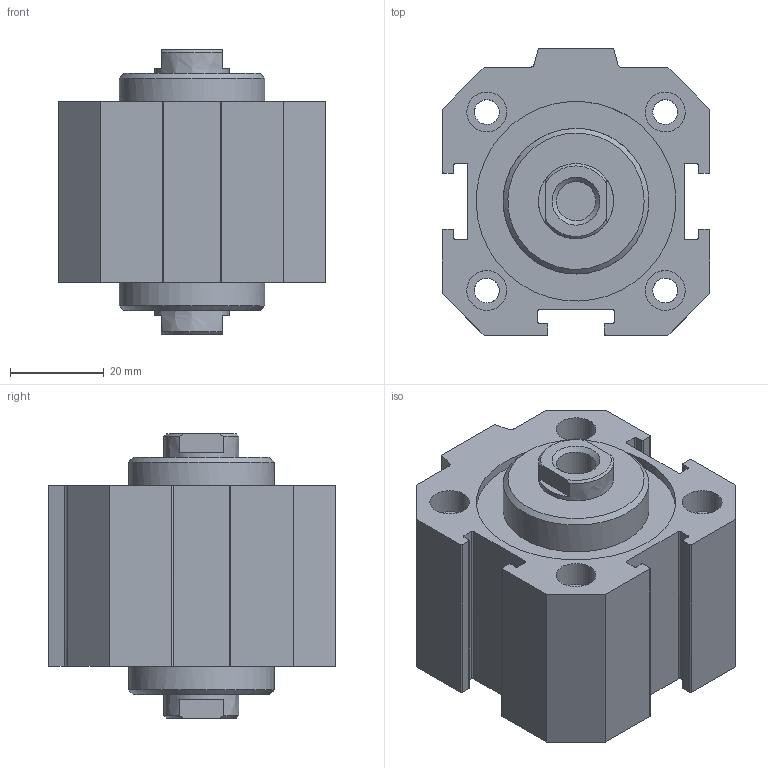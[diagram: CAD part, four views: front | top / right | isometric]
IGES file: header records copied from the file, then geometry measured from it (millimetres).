
Global section: file name: 1514_40_0000; native system: Autodesk Inventor 2014; preprocessor: unknown; author: A. Manieri; date: 20160824.120150; units: millimetre
Bounding box: 57 x 61 x 60.5 mm (x, y, z)
Volume: 112988.3 mm3; surface area: 34262.9 mm2
Topology: 2 solids, 2 shells, 130 faces, 339 edges, 233 vertices
Faces by surface type: bspline 130
